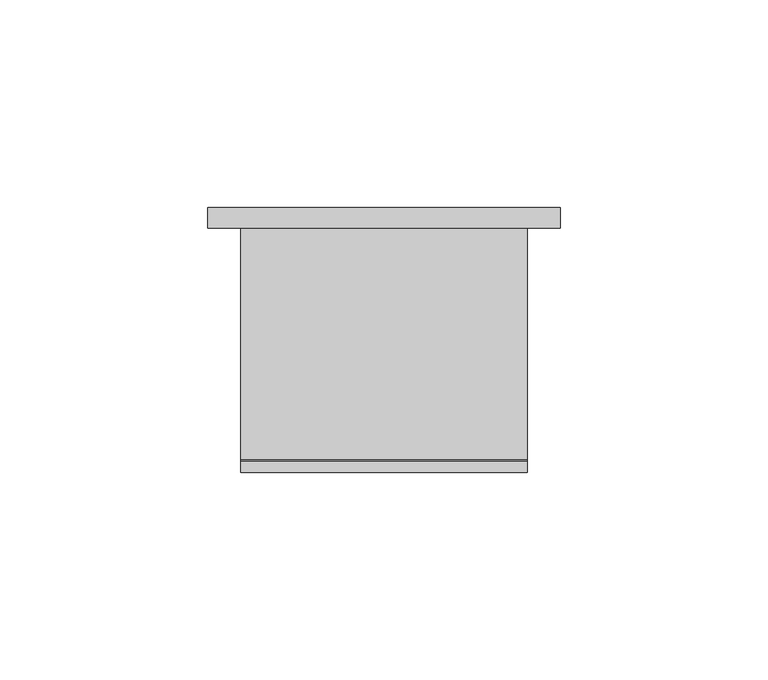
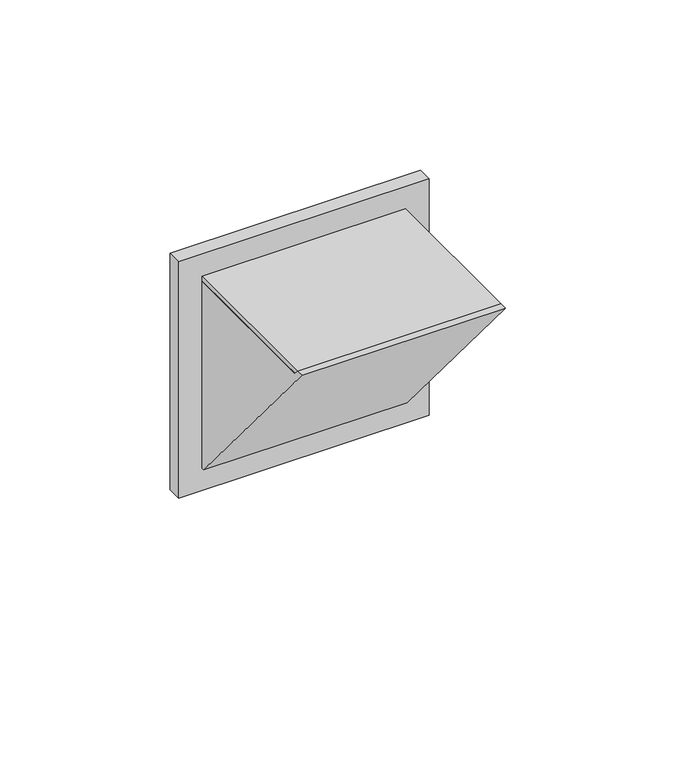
"""IFC4 building model written with IfcOpenShell, lengths in millimetres: light fixture geometry, Iluminação de caminho - Quadrada fixada : Iluminação de caminho - Quadrada fixada."""

from ifc_helpers import new_model, si_unit, frame, origin, place, context, project, spatial, polyline, outline, extrude, faceted_brep, source, transform, mapped, element, save


def light_fixture_525804bd(model_context):
    return source(origin(), model_context, "Body", "SolidModel", [
        extrude(outline(polyline([(157.5, 110.0), (92.5, 110.0), (92.5, 115.0), (157.5, 115.0), (157.5, 110.0)])), frame((0.0, 0.0, 327.0), z_axis=(0.0, 0.0, 1.0), x_axis=(1.0, 0.0, 0.0)), (0.0, 0.0, 1.0), 65.0),
        faceted_brep([(159.5, 110.0, 392.0), (159.5, 55.458524, 392.0), (159.5, 53.7803247, 394.0), (159.5, 51.1695101, 394.0), (159.5, 109.0673847, 325.0), (159.5, 110.0, 325.0), (157.5, 55.458524, 392.0), (157.5, 110.0, 392.0), (157.5, 110.0, 327.0), (90.5, 110.0, 325.0), (90.5, 110.0, 392.0), (92.5, 110.0, 392.0), (92.5, 110.0, 327.0), (90.5, 109.0673847, 325.0), (90.5, 51.1695101, 394.0), (90.5, 53.7803247, 394.0), (90.5, 55.458524, 392.0), (92.5, 55.458524, 392.0)], [[[0, 1, 2, 3, 4, 5]], [[6, 7, 8]], [[8, 7, 0, 5, 9, 10, 11, 12]], [[1, 0, 7, 6]], [[10, 9, 13, 14, 15, 16]], [[3, 2, 15, 14]], [[4, 3, 14, 13]], [[5, 4, 13, 9]], [[15, 2, 1, 6, 8, 12, 17, 16]], [[12, 11, 17]], [[17, 11, 10, 16]]]),
        extrude(outline(polyline([(53.7803247, 394.0), (110.0, 394.0), (110.0, 392.0), (55.458524, 392.0), (53.7803247, 394.0)])), frame((90.5, 0.0, 0.0), z_axis=(1.0, 0.0, 0.0), x_axis=(0.0, 1.0, 0.0)), (0.0, 0.0, 1.0), 69.0),
        extrude(outline(polyline([(402.0, 82.5), (317.0, 82.5), (317.0, 167.5), (402.0, 167.5), (402.0, 82.5)]), holes=[polyline([(392.0, 92.5), (392.0, 157.5), (327.0, 157.5), (327.0, 92.5), (392.0, 92.5)])]), frame((0.0, 110.0, 0.0), z_axis=(0.0, 1.0, 0.0), x_axis=(0.0, 0.0, 1.0)), (0.0, 0.0, 1.0), 5.0),
    ])


if __name__ == "__main__":
    model = new_model("IFC4")
    model_context = context("Model", 3, world=origin())
    ifc_project = project(units=[si_unit("LENGTHUNIT", "METRE", prefix="MILLI")], contexts=[model_context])
    site = spatial("IfcSite", under=ifc_project)
    building = spatial("IfcBuilding", under=site)
    placement = place(None, origin())
    light_fixture_shape = light_fixture_525804bd(model_context)
    element("IfcLightFixture", 1, ObjectType="Iluminação de caminho - Quadrada fixada : Iluminação de caminho - Quadrada fixada", at=placement, inside=building, context=model_context, shape_type="MappedRepresentation", body=[
        mapped(light_fixture_shape, transform((0.0, 0.0, 0.0), x_axis=(1.0, 0.0, 0.0), y_axis=(0.0, 1.0, 0.0), z_axis=(0.0, 0.0, 1.0))),
    ])
    save(model, "model.ifc")
